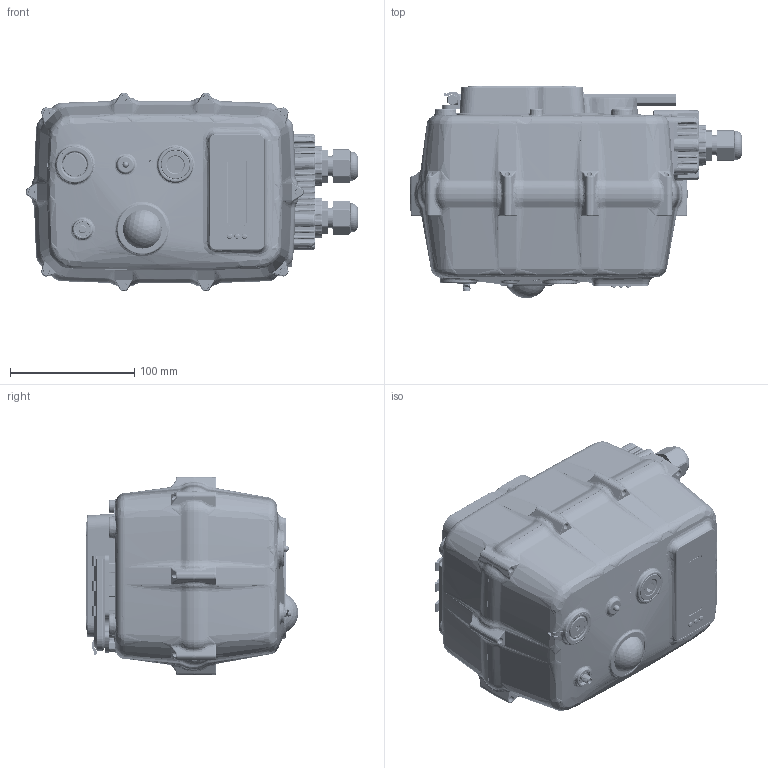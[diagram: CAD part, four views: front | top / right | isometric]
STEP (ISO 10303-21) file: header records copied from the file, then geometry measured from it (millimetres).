
FILE_DESCRIPTION (( 'STEP AP203' ), '1' );
FILE_NAME ('蚾饜极 - -躺俋倛.STEP', '2020-05-28T10:41:34', ( 'china' ), ( 'china' ), 'SwSTEP 2.0', 'SolidWorks 2018', '' );
FILE_SCHEMA (( 'CONFIG_CONTROL_DESIGN' ));
Length unit declared in the file: millimetre
Products named in the file (25): LED絳嫖翐; 40忒雄售忒; 燭磁滅鳥欶-; 蚾饜极 - -躺俋倛; 偌瑩; 接线盒盖_默认<按加工>; 臏菁釱; 噩え俋褲囀傍-145X110; 售忒殤 ; 怀堤粣22℅22; 硌尨齪傍え; 忒雄粣-TCR40; TCR40狟裔; 硌尨攫釱; 忒雄粣蚐猾23x15x7; TCR40奻裔; 硌尨齪; 噩え俋褲-145X110; 芢裝偌聽; 0.96ｴ躇LED; M20-呿蹋坶譫; 毞盄諉芛; 40珘儒噩え; 锁母垫圈; 毞盄蹟譫
Assembly tree (27 placements, depth 2):
  蚾饜极 - -躺俋倛
    臏菁釱
    怀堤粣22℅22
    TCR40狟裔
    TCR40奻裔
    芢裝偌聽
    毞盄諉芛
    毞盄蹟譫
    燭磁滅鳥欶-
    接线盒盖_默认<按加工>
    售忒殤 
    忒雄粣-TCR40
    忒雄粣蚐猾23x15x7
    噩え俋褲-145X110
    M20-呿蹋坶譫  x2
    锁母垫圈  x2
    40忒雄售忒
    偌瑩
    噩え俋褲囀傍-145X110
    硌尨齪傍え
    硌尨攫釱
    硌尨齪
    0.96ｴ躇LED  x2
    40珘儒噩え
    LED絳嫖翐
Bounding box: 266.71 x 170.62 x 159.43 mm (x, y, z)
Volume: 1139676.3 mm3; surface area: 528441.9 mm2
Topology: 29 solids, 31 shells, 8833 faces, 22061 edges, 13289 vertices
Faces by surface type: bspline 2642, cylinder 2401, plane 1837, cone 872, torus 864, sphere 217
Entity records: 328633 total; most frequent: CARTESIAN_POINT 138808, ORIENTED_EDGE 43028, DIRECTION 35193, EDGE_CURVE 21514, AXIS2_PLACEMENT_3D 14287, VERTEX_POINT 13110, EDGE_LOOP 9100, ADVANCED_FACE 8728
